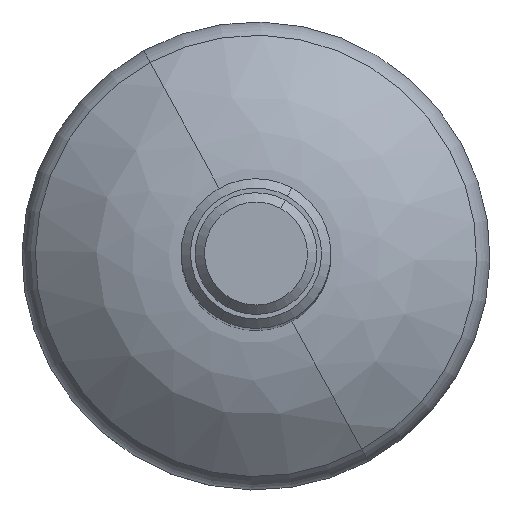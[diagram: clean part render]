
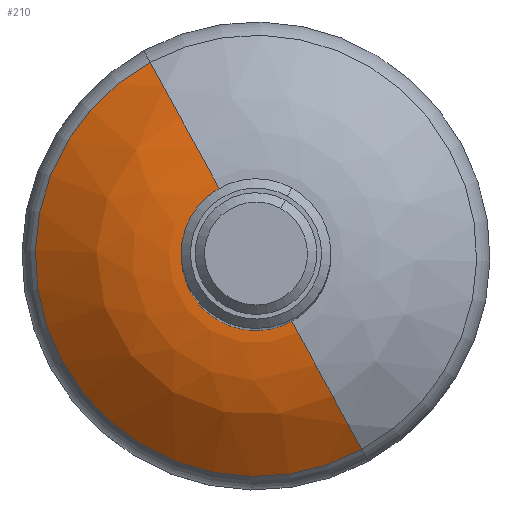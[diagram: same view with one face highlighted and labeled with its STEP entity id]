
A CAD part, top view. The second image highlights one B-rep face of the part: STEP entity #210.
In plain terms, the highlighted face is a revolution surface.
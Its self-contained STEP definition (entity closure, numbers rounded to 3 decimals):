
#129=CARTESIAN_POINT('Vertex',(-11.3,20.685,6.5)) ;
#136=CARTESIAN_POINT('Vertex',(11.3,-20.685,6.5)) ;
#151=CARTESIAN_POINT('Axis2P3D Location',(0.,0.,6.5)) ;
#164=CARTESIAN_POINT('Control Point',(-11.3,20.685,6.5)) ;
#165=CARTESIAN_POINT('Control Point',(-9.597,17.567,10.126)) ;
#166=CARTESIAN_POINT('Control Point',(-7.42,13.582,12.792)) ;
#167=CARTESIAN_POINT('Control Point',(-4.972,9.101,14.082)) ;
#168=CARTESIAN_POINT('Control Point',(-2.539,4.647,13.996)) ;
#169=CARTESIAN_POINT('Axis1P Location',(0.,0.,-11.)) ;
#173=CARTESIAN_POINT('Axis2P3D Location',(2.741,-5.017,-11.)) ;
#177=CARTESIAN_POINT('Vertex',(2.539,-4.647,13.996)) ;
#180=CARTESIAN_POINT('Axis2P3D Location',(-2.741,5.017,-11.)) ;
#184=CARTESIAN_POINT('Vertex',(-2.539,4.647,13.996)) ;
#199=CARTESIAN_POINT('Axis2P3D Location',(0.,0.,13.996)) ;
#152=DIRECTION('Axis2P3D Direction',(0.,0.,1.)) ;
#170=DIRECTION('Axis1P Direction',(-0.,-0.,-1.)) ;
#174=DIRECTION('Axis2P3D Direction',(-0.878,-0.479,0.)) ;
#181=DIRECTION('Axis2P3D Direction',(0.878,0.479,-0.)) ;
#200=DIRECTION('Axis2P3D Direction',(0.,0.,1.)) ;
#153=AXIS2_PLACEMENT_3D('Circle Axis2P3D',#151,#152,$) ;
#175=AXIS2_PLACEMENT_3D('Circle Axis2P3D',#173,#174,$) ;
#182=AXIS2_PLACEMENT_3D('Circle Axis2P3D',#180,#181,$) ;
#201=AXIS2_PLACEMENT_3D('Circle Axis2P3D',#199,#200,$) ;
#205=ORIENTED_EDGE('',*,*,#186,.F.) ;
#206=ORIENTED_EDGE('',*,*,#155,.T.) ;
#207=ORIENTED_EDGE('',*,*,#179,.T.) ;
#208=ORIENTED_EDGE('',*,*,#203,.F.) ;
#210=ADVANCED_FACE('PartBody',(#209),#172,.F.) ;
#171=AXIS1_PLACEMENT('Revolution Surface Axis1P',#169,#170) ;
#163=B_SPLINE_CURVE_WITH_KNOTS('',4,(#164,#165,#166,#167,#168),.UNSPECIFIED.,.F.,.U.,(5,5),(19.385,39.692),.UNSPECIFIED.) ;
#154=CIRCLE('generated circle',#153,23.571) ;
#176=CIRCLE('generated circle',#175,25.) ;
#183=CIRCLE('generated circle',#182,25.) ;
#202=CIRCLE('generated circle',#201,5.295) ;
#155=EDGE_CURVE('',#130,#137,#154,.T.) ;
#179=EDGE_CURVE('',#137,#178,#176,.T.) ;
#186=EDGE_CURVE('',#130,#185,#183,.T.) ;
#203=EDGE_CURVE('',#185,#178,#202,.T.) ;
#204=EDGE_LOOP('',(#205,#206,#207,#208)) ;
#209=FACE_OUTER_BOUND('',#204,.T.) ;
#172=SURFACE_OF_REVOLUTION('homeo Torus',#163,#171) ;
#130=VERTEX_POINT('',#129) ;
#137=VERTEX_POINT('',#136) ;
#178=VERTEX_POINT('',#177) ;
#185=VERTEX_POINT('',#184) ;
